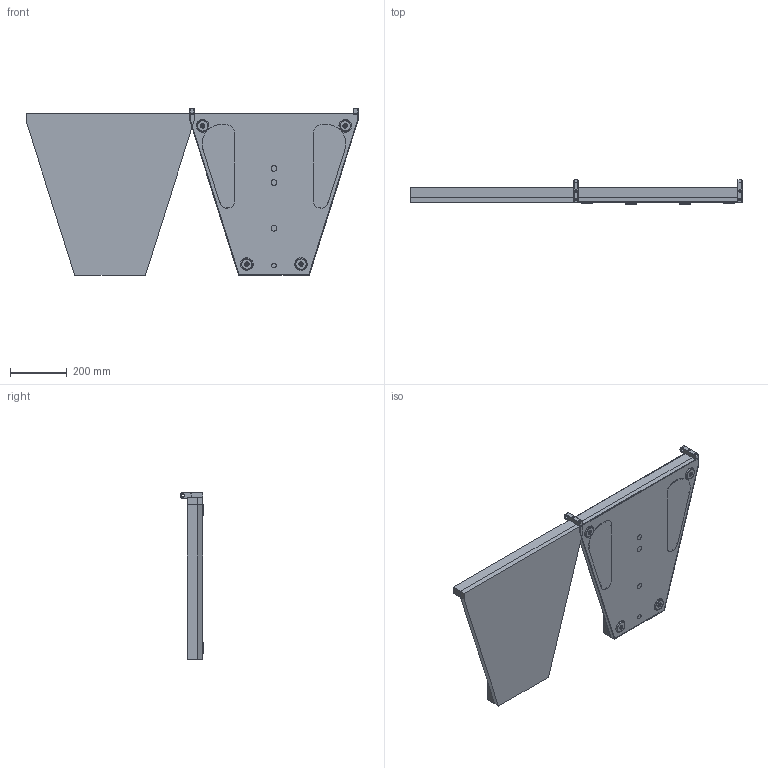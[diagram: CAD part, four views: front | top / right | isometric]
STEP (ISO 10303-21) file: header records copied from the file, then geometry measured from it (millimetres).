
FILE_DESCRIPTION (( 'STEP AP203' ), '1' );
FILE_NAME ('Galeo_Stackingboard.STEP', '2014-04-04T08:47:24', ( 'Michael Anter' ), ( 'SEEBURG acoustic line GmbH' ), 'SwSTEP 2.0', 'SolidWorks 2009', '' );
FILE_SCHEMA (( 'CONFIG_CONTROL_DESIGN' ));
Length unit declared in the file: millimetre
Products named in the file (6): Galeo_Stackingboard; galeo_sub_schrägsteller; Galeo_Stackingboard_August2011_Version2; gummifuss; Hintere_Kranöse; Vordere_Kranöse
Assembly tree (9 placements, depth 2):
  Galeo_Stackingboard
    gummifuss  x4
    Hintere_Kranöse
    galeo_sub_schrägsteller
    Vordere_Kranöse  x2
    Galeo_Stackingboard_August2011_Version2
Bounding box: 1165 x 84 x 586 mm (x, y, z)
Volume: 20897635.3 mm3; surface area: 2672218.3 mm2
Topology: 15 solids, 15 shells, 430 faces, 1015 edges, 626 vertices
Faces by surface type: plane 220, cylinder 136, cone 42, torus 32
Entity records: 10751 total; most frequent: CARTESIAN_POINT 1901, DIRECTION 1765, ORIENTED_EDGE 1618, EDGE_CURVE 809, AXIS2_PLACEMENT_3D 616, LINE 533, VECTOR 533, VERTEX_POINT 500
